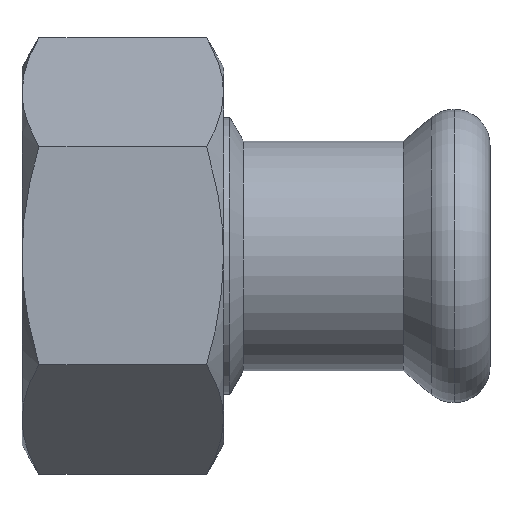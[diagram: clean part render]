
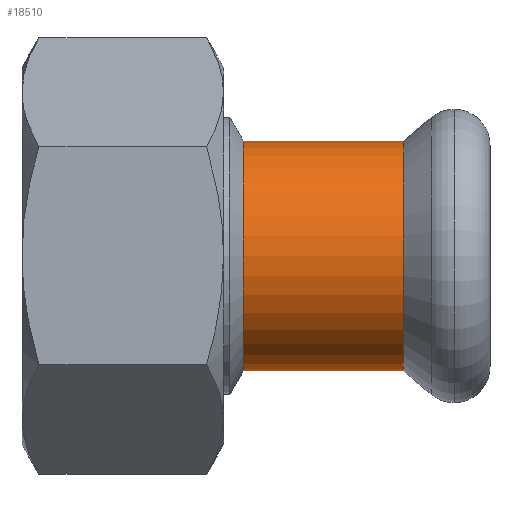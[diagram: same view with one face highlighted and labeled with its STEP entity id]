
A CAD part, top view. The second image highlights one B-rep face of the part: STEP entity #18510.
In plain terms, the highlighted cylindrical face has radius 9.125 mm (diameter 18.25 mm), a partial arc.
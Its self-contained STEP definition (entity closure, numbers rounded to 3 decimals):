
#17370=CARTESIAN_POINT('',(204.124,22.852,
0.));
#17380=VERTEX_POINT('',#17370);
#17560=CARTESIAN_POINT('',(204.124,4.602,
0.));
#17570=VERTEX_POINT('',#17560);
#17600=CARTESIAN_POINT('',(204.124,13.727,
0.));
#17610=DIRECTION('',(1.,0.,0.));
#17620=DIRECTION('',(0.,-1.,0.));
#17630=AXIS2_PLACEMENT_3D('',#17600,#17610,#17620);
#17640=CIRCLE('',#17630,9.125);
#17650=EDGE_CURVE('',#17380,#17570,#17640,.T.);
#17960=CARTESIAN_POINT('',(191.445,22.852,
0.));
#17970=VERTEX_POINT('',#17960);
#18150=CARTESIAN_POINT('',(191.445,4.602,
0.));
#18160=VERTEX_POINT('',#18150);
#18190=CARTESIAN_POINT('',(191.445,13.727,
0.));
#18200=DIRECTION('',(-1.,0.,0.));
#18210=DIRECTION('',(0.,-1.,0.));
#18220=AXIS2_PLACEMENT_3D('',#18190,#18200,#18210);
#18230=CIRCLE('',#18220,9.125);
#18290=CARTESIAN_POINT('',(198.27,13.727,
0.));
#18300=DIRECTION('',(1.,0.,0.));
#18310=DIRECTION('',(0.,-1.,0.));
#18320=AXIS2_PLACEMENT_3D('',#18290,#18300,#18310);
#18330=CYLINDRICAL_SURFACE('',#18320,9.125);
#18340=CARTESIAN_POINT('',(198.27,4.602,
0.));
#18350=DIRECTION('',(1.,0.,0.));
#18360=VECTOR('',#18350,1.);
#18370=LINE('',#18340,#18360);
#18380=EDGE_CURVE('',#18160,#17570,#18370,.T.);
#18390=ORIENTED_EDGE('',*,*,#18380,.T.);
#18400=EDGE_CURVE('',#18160,#17970,#18230,.T.);
#18410=ORIENTED_EDGE('',*,*,#18400,.F.);
#18420=CARTESIAN_POINT('',(198.27,22.852,
0.));
#18430=DIRECTION('',(1.,0.,0.));
#18440=VECTOR('',#18430,1.);
#18450=LINE('',#18420,#18440);
#18460=EDGE_CURVE('',#17970,#17380,#18450,.T.);
#18470=ORIENTED_EDGE('',*,*,#18460,.F.);
#18480=ORIENTED_EDGE('',*,*,#17650,.F.);
#18490=EDGE_LOOP('',(#18480,#18470,#18410,#18390));
#18500=FACE_OUTER_BOUND('',#18490,.T.);
#18510=ADVANCED_FACE('',(#18500),#18330,.T.);
